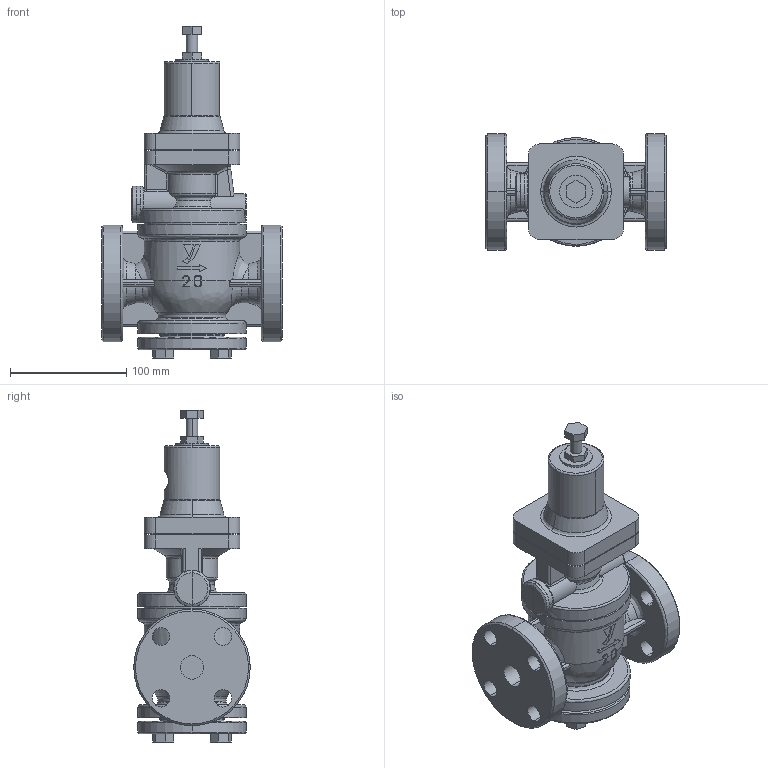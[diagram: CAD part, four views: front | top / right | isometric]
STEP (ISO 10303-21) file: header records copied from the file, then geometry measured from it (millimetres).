
FILE_DESCRIPTION( (''), '2;1');
FILE_NAME ('PC1015.12936.GP-1000(20A)JIS10K3D_21721.stp','2024-08-05T09:01:24',(''),(''),'spGate 19.8.4 (****-****-****-****)','','');
FILE_SCHEMA (('AUTOMOTIVE_DESIGN'));
Length unit declared in the file: millimetre
Bounding box: 155 x 100 x 285 mm (x, y, z)
Volume: 1360436.6 mm3; surface area: 155586.1 mm2
Topology: 1 solids, 1 shells, 346 faces, 921 edges, 600 vertices
Faces by surface type: plane 143, bspline 109, cylinder 94
Entity records: 21869 total; most frequent: CARTESIAN_POINT 7073, ORIENTED_EDGE 1838, DIRECTION 1311, COLOUR_RGB 1266, PRESENTATION_STYLE_ASSIGNMENT 1266, STYLED_ITEM 1266, EDGE_CURVE 919, DRAUGHTING_PRE_DEFINED_CURVE_FONT 919
